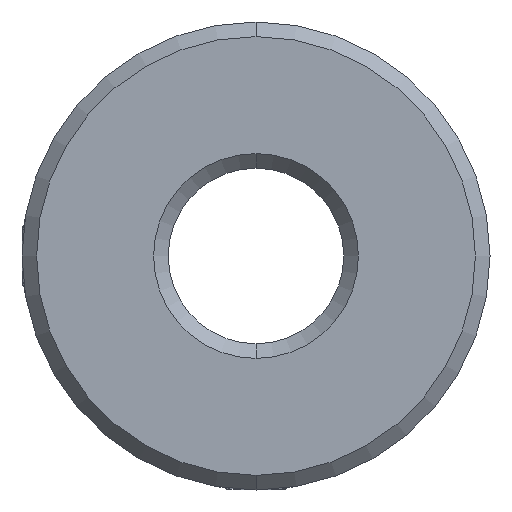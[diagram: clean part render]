
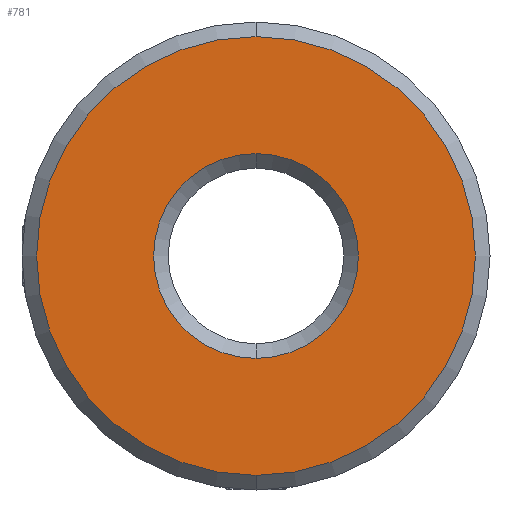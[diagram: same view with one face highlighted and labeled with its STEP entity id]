
A CAD part, front view. The second image highlights one B-rep face of the part: STEP entity #781.
In plain terms, the highlighted planar face has unit normal (0, -1, 0).
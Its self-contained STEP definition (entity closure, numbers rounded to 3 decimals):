
#29 = AXIS2_PLACEMENT_3D ( 'NONE', #3461, #169, #988 ) ;
#53 = DIRECTION ( 'NONE',  ( 0., 1., 0. ) ) ;
#132 = DIRECTION ( 'NONE',  ( 0., 1., 0. ) ) ;
#169 = DIRECTION ( 'NONE',  ( 0., 1., 0. ) ) ;
#294 = AXIS2_PLACEMENT_3D ( 'NONE', #3414, #940, #2630 ) ;
#727 = DIRECTION ( 'NONE',  ( 0., 0., 1. ) ) ;
#732 = CIRCLE ( 'NONE', #2127, 3.5 ) ;
#773 = CARTESIAN_POINT ( 'NONE',  ( -10.188, -12.277, -7.454 ) ) ;
#781 = ADVANCED_FACE ( 'NONE', ( #2682, #2431 ), #3520, .F. ) ;
#804 = EDGE_CURVE ( 'NONE', #1154, #2003, #2595, .T. ) ;
#850 = CIRCLE ( 'NONE', #2072, 3.5 ) ;
#940 = DIRECTION ( 'NONE',  ( 0., -1., 0. ) ) ;
#988 = DIRECTION ( 'NONE',  ( 0., 0., 1. ) ) ;
#1154 = VERTEX_POINT ( 'NONE', #773 ) ;
#1233 = DIRECTION ( 'NONE',  ( 0., 0., 1. ) ) ;
#1263 = DIRECTION ( 'NONE',  ( 0., -1., 0. ) ) ;
#1373 = CARTESIAN_POINT ( 'NONE',  ( -10.188, -12.277, 7.546 ) ) ;
#1472 = EDGE_CURVE ( 'NONE', #2690, #3146, #732, .T. ) ;
#1843 = EDGE_CURVE ( 'NONE', #3146, #2690, #850, .T. ) ;
#1901 = CIRCLE ( 'NONE', #294, 7.5 ) ;
#2003 = VERTEX_POINT ( 'NONE', #1373 ) ;
#2031 = ORIENTED_EDGE ( 'NONE', *, *, #2208, .T. ) ;
#2072 = AXIS2_PLACEMENT_3D ( 'NONE', #2636, #132, #1233 ) ;
#2127 = AXIS2_PLACEMENT_3D ( 'NONE', #2322, #53, #3410 ) ;
#2208 = EDGE_CURVE ( 'NONE', #2003, #1154, #1901, .T. ) ;
#2227 = EDGE_LOOP ( 'NONE', ( #2563, #2295 ) ) ;
#2295 = ORIENTED_EDGE ( 'NONE', *, *, #1843, .T. ) ;
#2322 = CARTESIAN_POINT ( 'NONE',  ( -10.188, -12.277, 0.046 ) ) ;
#2346 = AXIS2_PLACEMENT_3D ( 'NONE', #2967, #1263, #727 ) ;
#2431 = FACE_BOUND ( 'NONE', #2227, .T. ) ;
#2563 = ORIENTED_EDGE ( 'NONE', *, *, #1472, .T. ) ;
#2573 = CARTESIAN_POINT ( 'NONE',  ( -10.188, -12.277, 3.546 ) ) ;
#2595 = CIRCLE ( 'NONE', #2346, 7.5 ) ;
#2630 = DIRECTION ( 'NONE',  ( 0., 0., 1. ) ) ;
#2636 = CARTESIAN_POINT ( 'NONE',  ( -10.188, -12.277, 0.046 ) ) ;
#2644 = ORIENTED_EDGE ( 'NONE', *, *, #804, .T. ) ;
#2682 = FACE_OUTER_BOUND ( 'NONE', #3027, .T. ) ;
#2690 = VERTEX_POINT ( 'NONE', #2729 ) ;
#2729 = CARTESIAN_POINT ( 'NONE',  ( -10.188, -12.277, -3.454 ) ) ;
#2967 = CARTESIAN_POINT ( 'NONE',  ( -10.188, -12.277, 0.046 ) ) ;
#3027 = EDGE_LOOP ( 'NONE', ( #2031, #2644 ) ) ;
#3146 = VERTEX_POINT ( 'NONE', #2573 ) ;
#3410 = DIRECTION ( 'NONE',  ( 0., 0., 1. ) ) ;
#3414 = CARTESIAN_POINT ( 'NONE',  ( -10.188, -12.277, 0.046 ) ) ;
#3461 = CARTESIAN_POINT ( 'NONE',  ( -10.188, -12.277, 0.046 ) ) ;
#3520 = PLANE ( 'NONE',  #29 ) ;
